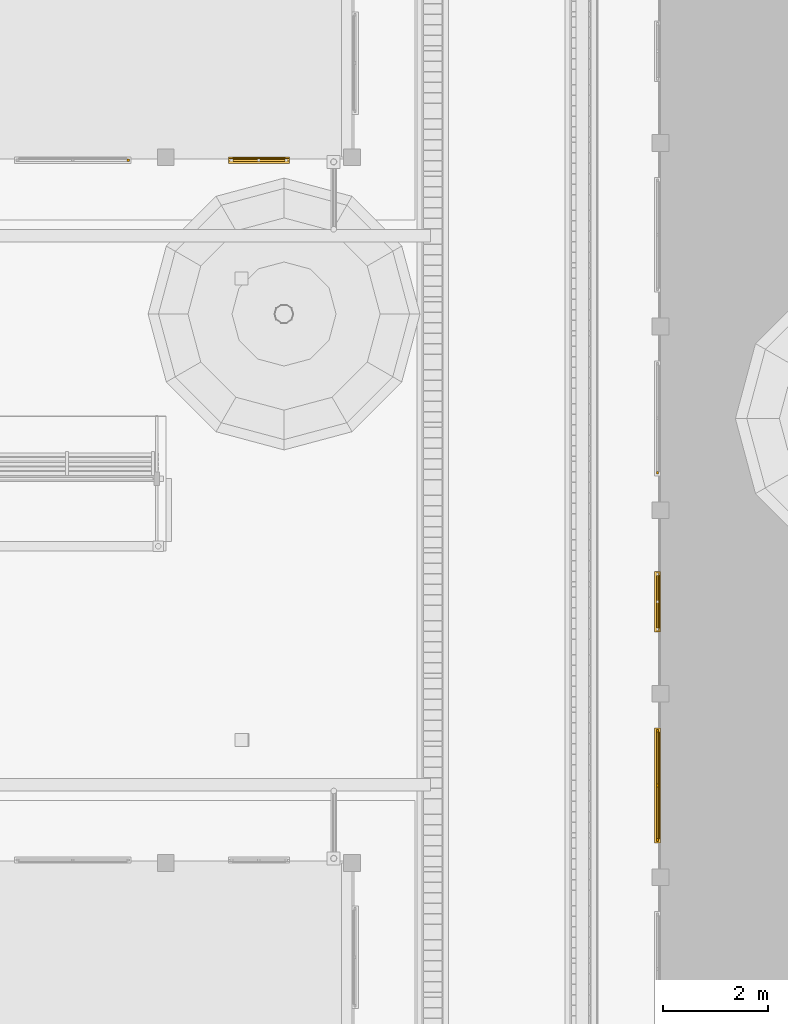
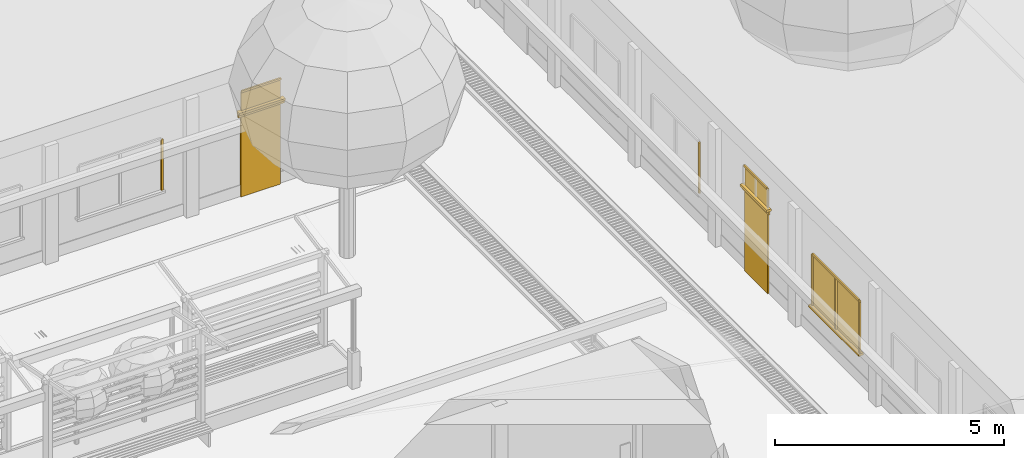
# One storey, part 60 of 166: 14 windows, 4 doors.
"""IFC2X3 building model written with IfcOpenShell, lengths in metres."""

from ifc_helpers import new_model, si_unit, origin, origin_with_axes, place, context, subcontext, project, spatial, faceted_brep, element, save


model = new_model("IFC2X3")

# Units and contexts
model_context = context("Model", 3, precision=1e-05, world=origin_with_axes())
body_context = subcontext(model_context, "Body", "Model", "MODEL_VIEW")
ifc_project = project(units=[si_unit("LENGTHUNIT", "METRE"), si_unit("AREAUNIT", "SQUARE_METRE"), si_unit("VOLUMEUNIT", "CUBIC_METRE"), si_unit("PLANEANGLEUNIT", "RADIAN")], contexts=[model_context])

# Site, building, storey
site_placement = place(None, origin_with_axes())
site = spatial("IfcSite", under=ifc_project, at=site_placement, Name="Predio Los Mangos - Morales, San Martín", CompositionType="ELEMENT")
building_placement = place(site_placement, origin())
building = spatial("IfcBuilding", under=site, at=building_placement, Name="Hogar de Refugio Temporal", CompositionType="ELEMENT")
storey_placement = place(building_placement, origin())
storey = spatial("IfcBuildingStorey", under=building, at=storey_placement, Name="NIVEL 1 (NPT +0.00)", CompositionType="ELEMENT", Elevation=0.0)

# Window
window_1_placement = place(storey_placement, origin())
element("IfcWindow", 1, at=window_1_placement, inside=storey, Name="E-08_v3_m", ObjectType="Ventana", context=body_context, shape_type="Brep", body=[
    faceted_brep([(45.4924, 116.92, 1.05), (45.4924, 116.96, 1.05), (45.5424, 116.96, 1.05), (45.5424, 116.92, 1.05), (45.4924, 116.92, 2.4), (45.5424, 116.92, 2.4), (45.5424, 116.96, 2.4), (45.4924, 116.96, 2.4)], [[[0, 1, 2, 3]], [[4, 5, 6, 7]], [[0, 3, 5, 4]], [[3, 2, 6, 5]], [[2, 1, 7, 6]], [[1, 0, 4, 7]]]),
])

# Doors
door_1_placement = place(storey_placement, origin())
element("IfcDoor", 2, at=door_1_placement, inside=storey, Name="E-08_p4", ObjectType="Puerta", context=body_context, shape_type="Brep", body=[
    faceted_brep([(47.52, 116.95, 0.15), (47.52, 116.99, 0.15), (48.52, 116.99, 0.15), (48.52, 116.95, 0.15), (47.52, 116.95, 2.3), (48.52, 116.95, 2.3), (48.52, 116.99, 2.3), (47.52, 116.99, 2.3)], [[[0, 1, 2, 3]], [[4, 5, 6, 7]], [[0, 3, 5, 4]], [[3, 2, 6, 5]], [[2, 1, 7, 6]], [[1, 0, 4, 7]]]),
])
door_2_placement = place(storey_placement, origin())
element("IfcDoor", 3, at=door_2_placement, inside=storey, Name="E-08_p4_marco", ObjectType="Puerta", context=body_context, shape_type="Brep", body=[
    faceted_brep([(47.44, 116.93, 2.3), (47.44, 116.97, 2.3), (48.6, 116.97, 2.3), (48.6, 116.93, 2.3), (47.44, 116.93, 2.38), (48.6, 116.93, 2.38), (48.6, 116.97, 2.38), (47.44, 116.97, 2.38)], [[[0, 1, 2, 3]], [[4, 5, 6, 7]], [[0, 3, 5, 4]], [[3, 2, 6, 5]], [[2, 1, 7, 6]], [[1, 0, 4, 7]]]),
])

# Windows
window_2_placement = place(storey_placement, origin())
element("IfcWindow", 4, at=window_2_placement, inside=storey, Name="E-08_vt4_vid", ObjectType="Ventana", context=body_context, shape_type="Brep", body=[
    faceted_brep([(47.52, 116.96, 2.45), (47.52, 116.98, 2.45), (48.52, 116.98, 2.45), (48.52, 116.96, 2.45), (47.52, 116.96, 2.95), (48.52, 116.96, 2.95), (48.52, 116.98, 2.95), (47.52, 116.98, 2.95)], [[[0, 1, 2, 3]], [[4, 5, 6, 7]], [[0, 3, 5, 4]], [[3, 2, 6, 5]], [[2, 1, 7, 6]], [[1, 0, 4, 7]]]),
])
window_3_placement = place(storey_placement, origin())
element("IfcWindow", 5, at=window_3_placement, inside=storey, Name="E-08_vt4_m", ObjectType="Ventana", context=body_context, shape_type="Brep", body=[
    faceted_brep([(47.52, 116.92, 2.95), (47.52, 116.96, 2.95), (48.52, 116.96, 2.95), (48.52, 116.92, 2.95), (47.52, 116.92, 3.0), (48.52, 116.92, 3.0), (48.52, 116.96, 3.0), (47.52, 116.96, 3.0)], [[[0, 1, 2, 3]], [[4, 5, 6, 7]], [[0, 3, 5, 4]], [[3, 2, 6, 5]], [[2, 1, 7, 6]], [[1, 0, 4, 7]]]),
])
window_4_placement = place(storey_placement, origin())
element("IfcWindow", 6, at=window_4_placement, inside=storey, Name="E-08_vt4_alf", ObjectType="Ventana", context=body_context, shape_type="Brep", body=[
    faceted_brep([(47.44, 117.0, 2.39), (47.44, 116.88, 2.39), (48.6, 116.88, 2.39), (48.6, 117.0, 2.39), (47.44, 117.0, 2.45), (48.6, 117.0, 2.45), (48.6, 116.88, 2.45), (47.44, 116.88, 2.45)], [[[0, 1, 2, 3]], [[4, 5, 6, 7]], [[0, 3, 5, 4]], [[3, 2, 6, 5]], [[2, 1, 7, 6]], [[1, 0, 4, 7]]]),
])
window_5_placement = place(storey_placement, origin())
element("IfcWindow", 7, at=window_5_placement, inside=storey, Name="E-07_v3_vid", ObjectType="Ventana", context=body_context, shape_type="Brep", body=[
    faceted_brep([(55.66, 103.9671, 1.05), (55.66, 106.0029, 1.05), (55.68, 106.0029, 1.05), (55.68, 103.9671, 1.05), (55.66, 103.9671, 2.4), (55.68, 103.9671, 2.4), (55.68, 106.0029, 2.4), (55.66, 106.0029, 2.4)], [[[0, 1, 2, 3]], [[4, 5, 6, 7]], [[0, 3, 5, 4]], [[3, 2, 6, 5]], [[2, 1, 7, 6]], [[1, 0, 4, 7]]]),
])
window_6_placement = place(storey_placement, origin())
element("IfcWindow", 8, at=window_6_placement, inside=storey, Name="E-07_v3_m", ObjectType="Ventana", context=body_context, shape_type="Brep", body=[
    faceted_brep([(55.62, 103.9171, 1.05), (55.62, 103.9671, 1.05), (55.66, 103.9671, 1.05), (55.66, 103.9171, 1.05), (55.62, 103.9171, 2.4), (55.66, 103.9171, 2.4), (55.66, 103.9671, 2.4), (55.62, 103.9671, 2.4)], [[[0, 1, 2, 3]], [[4, 5, 6, 7]], [[0, 3, 5, 4]], [[3, 2, 6, 5]], [[2, 1, 7, 6]], [[1, 0, 4, 7]]]),
])
window_7_placement = place(storey_placement, origin())
element("IfcWindow", 9, at=window_7_placement, inside=storey, Name="E-07_v3_m", ObjectType="Ventana", context=body_context, shape_type="Brep", body=[
    faceted_brep([(55.62, 106.0029, 1.05), (55.62, 106.0529, 1.05), (55.66, 106.0529, 1.05), (55.66, 106.0029, 1.05), (55.62, 106.0029, 2.4), (55.66, 106.0029, 2.4), (55.66, 106.0529, 2.4), (55.62, 106.0529, 2.4)], [[[0, 1, 2, 3]], [[4, 5, 6, 7]], [[0, 3, 5, 4]], [[3, 2, 6, 5]], [[2, 1, 7, 6]], [[1, 0, 4, 7]]]),
])
window_8_placement = place(storey_placement, origin())
element("IfcWindow", 10, at=window_8_placement, inside=storey, Name="E-07_v3_m", ObjectType="Ventana", context=body_context, shape_type="Brep", body=[
    faceted_brep([(55.62, 103.9671, 2.4), (55.62, 106.0029, 2.4), (55.66, 106.0029, 2.4), (55.66, 103.9671, 2.4), (55.62, 103.9671, 2.45), (55.66, 103.9671, 2.45), (55.66, 106.0029, 2.45), (55.62, 106.0029, 2.45)], [[[0, 1, 2, 3]], [[4, 5, 6, 7]], [[0, 3, 5, 4]], [[3, 2, 6, 5]], [[2, 1, 7, 6]], [[1, 0, 4, 7]]]),
])
window_9_placement = place(storey_placement, origin())
element("IfcWindow", 11, at=window_9_placement, inside=storey, Name="E-07_v3_m", ObjectType="Ventana", context=body_context, shape_type="Brep", body=[
    faceted_brep([(55.62, 104.96, 1.05), (55.62, 105.01, 1.05), (55.66, 105.01, 1.05), (55.66, 104.96, 1.05), (55.62, 104.96, 2.4), (55.66, 104.96, 2.4), (55.66, 105.01, 2.4), (55.62, 105.01, 2.4)], [[[0, 1, 2, 3]], [[4, 5, 6, 7]], [[0, 3, 5, 4]], [[3, 2, 6, 5]], [[2, 1, 7, 6]], [[1, 0, 4, 7]]]),
])
window_10_placement = place(storey_placement, origin())
element("IfcWindow", 12, at=window_10_placement, inside=storey, Name="E-07_v3_alf", ObjectType="Ventana", context=body_context, shape_type="Brep", body=[
    faceted_brep([(55.7, 103.8871, 0.99), (55.7, 106.0829, 0.99), (55.58, 106.0829, 0.99), (55.58, 103.8871, 0.99), (55.7, 103.8871, 1.05), (55.58, 103.8871, 1.05), (55.58, 106.0829, 1.05), (55.7, 106.0829, 1.05)], [[[0, 1, 2, 3]], [[4, 5, 6, 7]], [[0, 3, 5, 4]], [[3, 2, 6, 5]], [[2, 1, 7, 6]], [[1, 0, 4, 7]]]),
])

# Doors
door_3_placement = place(storey_placement, origin())
element("IfcDoor", 13, at=door_3_placement, inside=storey, Name="E-07_p4", ObjectType="Puerta", context=body_context, shape_type="Brep", body=[
    faceted_brep([(55.65, 107.995, 0.15), (55.65, 108.995, 0.15), (55.69, 108.995, 0.15), (55.69, 107.995, 0.15), (55.65, 107.995, 2.3), (55.69, 107.995, 2.3), (55.69, 108.995, 2.3), (55.65, 108.995, 2.3)], [[[0, 1, 2, 3]], [[4, 5, 6, 7]], [[0, 3, 5, 4]], [[3, 2, 6, 5]], [[2, 1, 7, 6]], [[1, 0, 4, 7]]]),
])
door_4_placement = place(storey_placement, origin())
element("IfcDoor", 14, at=door_4_placement, inside=storey, Name="E-07_p4_marco", ObjectType="Puerta", context=body_context, shape_type="Brep", body=[
    faceted_brep([(55.63, 107.915, 2.3), (55.63, 109.075, 2.3), (55.67, 109.075, 2.3), (55.67, 107.915, 2.3), (55.63, 107.915, 2.38), (55.67, 107.915, 2.38), (55.67, 109.075, 2.38), (55.63, 109.075, 2.38)], [[[0, 1, 2, 3]], [[4, 5, 6, 7]], [[0, 3, 5, 4]], [[3, 2, 6, 5]], [[2, 1, 7, 6]], [[1, 0, 4, 7]]]),
])

# Windows
window_11_placement = place(storey_placement, origin())
element("IfcWindow", 15, at=window_11_placement, inside=storey, Name="E-07_vt4_vid", ObjectType="Ventana", context=body_context, shape_type="Brep", body=[
    faceted_brep([(55.66, 107.995, 2.45), (55.66, 108.995, 2.45), (55.68, 108.995, 2.45), (55.68, 107.995, 2.45), (55.66, 107.995, 2.95), (55.68, 107.995, 2.95), (55.68, 108.995, 2.95), (55.66, 108.995, 2.95)], [[[0, 1, 2, 3]], [[4, 5, 6, 7]], [[0, 3, 5, 4]], [[3, 2, 6, 5]], [[2, 1, 7, 6]], [[1, 0, 4, 7]]]),
])
window_12_placement = place(storey_placement, origin())
element("IfcWindow", 16, at=window_12_placement, inside=storey, Name="E-07_vt4_m", ObjectType="Ventana", context=body_context, shape_type="Brep", body=[
    faceted_brep([(55.62, 107.995, 2.95), (55.62, 108.995, 2.95), (55.66, 108.995, 2.95), (55.66, 107.995, 2.95), (55.62, 107.995, 3.0), (55.66, 107.995, 3.0), (55.66, 108.995, 3.0), (55.62, 108.995, 3.0)], [[[0, 1, 2, 3]], [[4, 5, 6, 7]], [[0, 3, 5, 4]], [[3, 2, 6, 5]], [[2, 1, 7, 6]], [[1, 0, 4, 7]]]),
])
window_13_placement = place(storey_placement, origin())
element("IfcWindow", 17, at=window_13_placement, inside=storey, Name="E-07_vt4_alf", ObjectType="Ventana", context=body_context, shape_type="Brep", body=[
    faceted_brep([(55.7, 107.915, 2.39), (55.7, 109.075, 2.39), (55.58, 109.075, 2.39), (55.58, 107.915, 2.39), (55.7, 107.915, 2.45), (55.58, 107.915, 2.45), (55.58, 109.075, 2.45), (55.7, 109.075, 2.45)], [[[0, 1, 2, 3]], [[4, 5, 6, 7]], [[0, 3, 5, 4]], [[3, 2, 6, 5]], [[2, 1, 7, 6]], [[1, 0, 4, 7]]]),
])
window_14_placement = place(storey_placement, origin())
element("IfcWindow", 18, at=window_14_placement, inside=storey, Name="E-07_v5_m", ObjectType="Ventana", context=body_context, shape_type="Brep", body=[
    faceted_brep([(55.62, 110.9371, 1.05), (55.62, 110.9871, 1.05), (55.66, 110.9871, 1.05), (55.66, 110.9371, 1.05), (55.62, 110.9371, 2.4), (55.66, 110.9371, 2.4), (55.66, 110.9871, 2.4), (55.62, 110.9871, 2.4)], [[[0, 1, 2, 3]], [[4, 5, 6, 7]], [[0, 3, 5, 4]], [[3, 2, 6, 5]], [[2, 1, 7, 6]], [[1, 0, 4, 7]]]),
])

save(model, "model.ifc")
